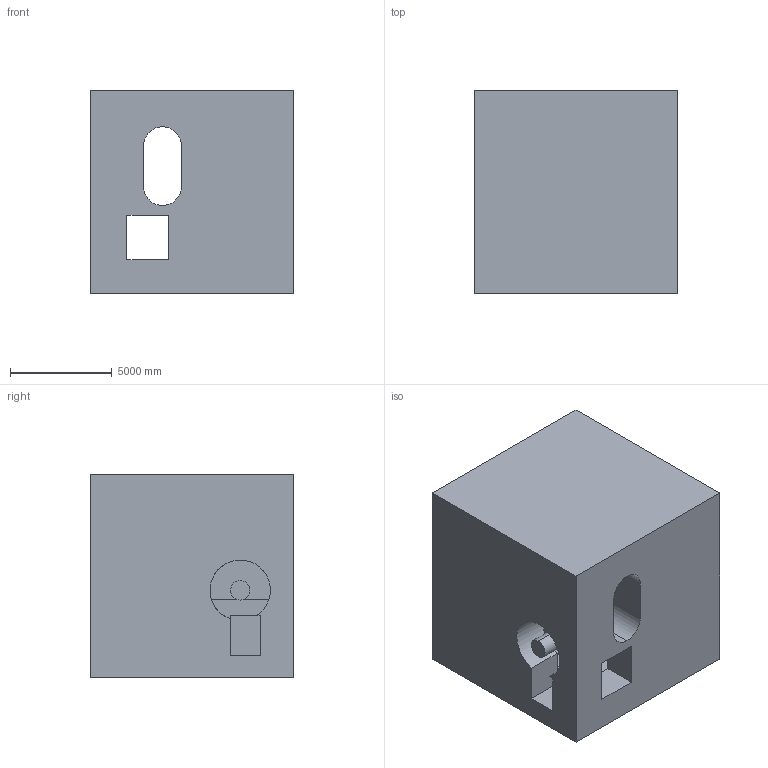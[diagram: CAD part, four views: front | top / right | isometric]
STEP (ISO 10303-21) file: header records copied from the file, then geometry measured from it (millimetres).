
FILE_DESCRIPTION (( 'STEP AP203' ), '1' );
FILE_NAME ('447.STEP', '2022-07-29T11:19:13', ( 'user' ), ( '' ), 'SwSTEP 2.0', 'SolidWorks 2021', '' );
FILE_SCHEMA (( 'CONFIG_CONTROL_DESIGN' ));
Length unit declared in the file: centimetre
Products named in the file (1): 447
Bounding box: 10000 x 10000 x 10000 mm (x, y, z)
Volume: 822130264674 mm3; surface area: 896025120.3 mm2
Topology: 1 solids, 1 shells, 36 faces, 99 edges, 66 vertices
Faces by surface type: plane 25, cylinder 11
Entity records: 1238 total; most frequent: CARTESIAN_POINT 202, DIRECTION 199, ORIENTED_EDGE 198, EDGE_CURVE 99, VECTOR 73, LINE 73, VERTEX_POINT 66, AXIS2_PLACEMENT_3D 63
